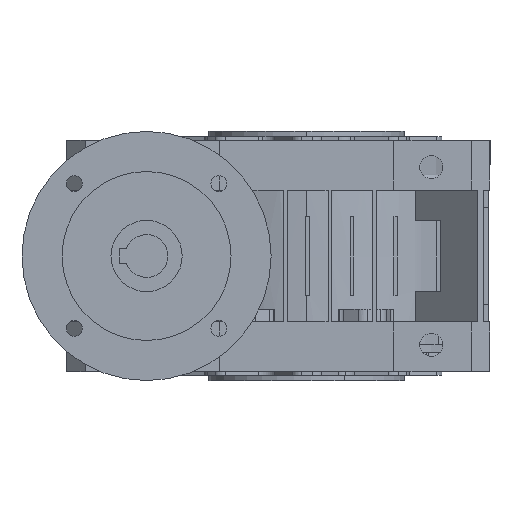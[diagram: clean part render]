
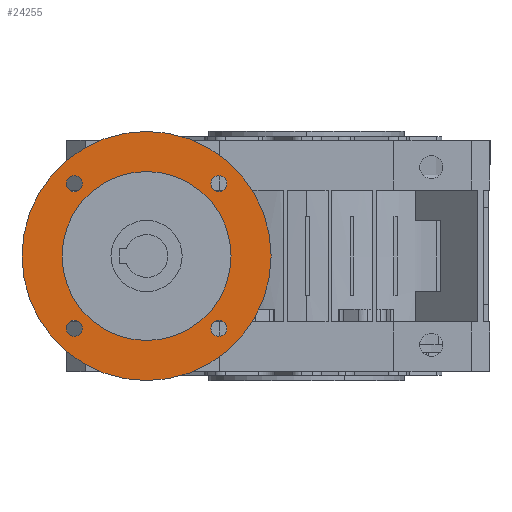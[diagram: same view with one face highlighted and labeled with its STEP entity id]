
A CAD part, left-side view. The second image highlights one B-rep face of the part: STEP entity #24255.
In plain terms, the highlighted planar face has unit normal (-1, 0, 0) as drawn and (1, 0, 0) by its records, which use the part's own axes.
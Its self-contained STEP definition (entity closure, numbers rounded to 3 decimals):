
#118 = CARTESIAN_POINT ( 'NONE',  ( 15., 0., -47.5 ) ) ;
#528 = DIRECTION ( 'NONE',  ( 0., 0., -1. ) ) ;
#1005 = EDGE_CURVE ( 'NONE', #36168, #25735, #21789, .T. ) ;
#1036 = DIRECTION ( 'NONE',  ( 1., 0., 0. ) ) ;
#1202 = ORIENTED_EDGE ( 'NONE', *, *, #5594, .F. ) ;
#1621 = CARTESIAN_POINT ( 'NONE',  ( 15., 40.659, 40.659 ) ) ;
#1759 = DIRECTION ( 'NONE',  ( 1., 0., 0. ) ) ;
#1800 = VERTEX_POINT ( 'NONE', #18047 ) ;
#2706 = VERTEX_POINT ( 'NONE', #33041 ) ;
#3245 = ORIENTED_EDGE ( 'NONE', *, *, #40620, .F. ) ;
#3613 = EDGE_CURVE ( 'NONE', #22430, #1800, #36751, .T. ) ;
#3869 = DIRECTION ( 'NONE',  ( 0., 0., 1. ) ) ;
#4230 = DIRECTION ( 'NONE',  ( 1., 0., 0. ) ) ;
#4306 = DIRECTION ( 'NONE',  ( 0., -1., 0. ) ) ;
#4324 = FACE_OUTER_BOUND ( 'NONE', #6805, .T. ) ;
#4746 = ORIENTED_EDGE ( 'NONE', *, *, #34402, .T. ) ;
#5594 = EDGE_CURVE ( 'NONE', #26882, #23439, #22767, .T. ) ;
#5700 = DIRECTION ( 'NONE',  ( 1., 0., 0. ) ) ;
#6411 = CARTESIAN_POINT ( 'NONE',  ( 15., 0., 0. ) ) ;
#6805 = EDGE_LOOP ( 'NONE', ( #22886, #40052 ) ) ;
#7052 = DIRECTION ( 'NONE',  ( 0., 0., 1. ) ) ;
#7377 = AXIS2_PLACEMENT_3D ( 'NONE', #38646, #13488, #23266 ) ;
#7525 = ORIENTED_EDGE ( 'NONE', *, *, #10679, .F. ) ;
#7866 = CIRCLE ( 'NONE', #35040, 4.5 ) ;
#8037 = CARTESIAN_POINT ( 'NONE',  ( 15., 40.659, 45.159 ) ) ;
#10120 = ORIENTED_EDGE ( 'NONE', *, *, #21808, .F. ) ;
#10484 = DIRECTION ( 'NONE',  ( 0., 0., 1. ) ) ;
#10647 = EDGE_LOOP ( 'NONE', ( #30049, #1202 ) ) ;
#10679 = EDGE_CURVE ( 'NONE', #2706, #20005, #36934, .T. ) ;
#10907 = EDGE_LOOP ( 'NONE', ( #25902, #3245 ) ) ;
#11133 = DIRECTION ( 'NONE',  ( 0., 1., 0. ) ) ;
#12689 = FACE_BOUND ( 'NONE', #10647, .T. ) ;
#13185 = DIRECTION ( 'NONE',  ( 0., 0., 1. ) ) ;
#13488 = DIRECTION ( 'NONE',  ( -1., 0., 0. ) ) ;
#13984 = DIRECTION ( 'NONE',  ( -1., 0., 0. ) ) ;
#14367 = EDGE_CURVE ( 'NONE', #34014, #21140, #28657, .T. ) ;
#14710 = DIRECTION ( 'NONE',  ( 0., 0., 1. ) ) ;
#15966 = CIRCLE ( 'NONE', #34690, 4.5 ) ;
#16054 = CARTESIAN_POINT ( 'NONE',  ( 15., -40.659, -45.159 ) ) ;
#16337 = CARTESIAN_POINT ( 'NONE',  ( 15., -40.659, 40.659 ) ) ;
#16531 = CARTESIAN_POINT ( 'NONE',  ( 15., 40.659, -40.659 ) ) ;
#16646 = EDGE_LOOP ( 'NONE', ( #20894, #7525 ) ) ;
#17582 = EDGE_CURVE ( 'NONE', #20005, #2706, #33607, .T. ) ;
#17766 = CARTESIAN_POINT ( 'NONE',  ( 15., -40.659, 40.659 ) ) ;
#17944 = CARTESIAN_POINT ( 'NONE',  ( 15., 40.659, 40.659 ) ) ;
#18047 = CARTESIAN_POINT ( 'NONE',  ( 15., 0., -70. ) ) ;
#18643 = CARTESIAN_POINT ( 'NONE',  ( 15., 0., 47.5 ) ) ;
#19178 = EDGE_CURVE ( 'NONE', #23439, #26882, #19207, .T. ) ;
#19207 = CIRCLE ( 'NONE', #24137, 4.5 ) ;
#19577 = DIRECTION ( 'NONE',  ( 1., 0., 0. ) ) ;
#19605 = CIRCLE ( 'NONE', #25456, 47.5 ) ;
#19859 = CARTESIAN_POINT ( 'NONE',  ( 15., -40.659, 36.159 ) ) ;
#20005 = VERTEX_POINT ( 'NONE', #16054 ) ;
#20072 = FACE_BOUND ( 'NONE', #31827, .T. ) ;
#20222 = PLANE ( 'NONE',  #7377 ) ;
#20698 = AXIS2_PLACEMENT_3D ( 'NONE', #32508, #23175, #4306 ) ;
#20894 = ORIENTED_EDGE ( 'NONE', *, *, #17582, .F. ) ;
#21140 = VERTEX_POINT ( 'NONE', #21845 ) ;
#21355 = DIRECTION ( 'NONE',  ( 1., 0., 0. ) ) ;
#21712 = AXIS2_PLACEMENT_3D ( 'NONE', #17766, #4230, #14710 ) ;
#21789 = CIRCLE ( 'NONE', #28450, 47.5 ) ;
#21808 = EDGE_CURVE ( 'NONE', #21140, #34014, #15966, .T. ) ;
#21845 = CARTESIAN_POINT ( 'NONE',  ( 15., 40.659, 36.159 ) ) ;
#22430 = VERTEX_POINT ( 'NONE', #34949 ) ;
#22766 = CARTESIAN_POINT ( 'NONE',  ( 15., 0., 0. ) ) ;
#22767 = CIRCLE ( 'NONE', #30257, 4.5 ) ;
#22886 = ORIENTED_EDGE ( 'NONE', *, *, #3613, .F. ) ;
#22930 = CARTESIAN_POINT ( 'NONE',  ( 15., 0., 0. ) ) ;
#23119 = ORIENTED_EDGE ( 'NONE', *, *, #1005, .T. ) ;
#23175 = DIRECTION ( 'NONE',  ( 1., 0., 0. ) ) ;
#23213 = DIRECTION ( 'NONE',  ( -1., 0., 0. ) ) ;
#23266 = DIRECTION ( 'NONE',  ( 0., 0., 1. ) ) ;
#23439 = VERTEX_POINT ( 'NONE', #34717 ) ;
#23509 = CIRCLE ( 'NONE', #21712, 4.5 ) ;
#23529 = FACE_BOUND ( 'NONE', #10907, .T. ) ;
#24137 = AXIS2_PLACEMENT_3D ( 'NONE', #24263, #28349, #528 ) ;
#24255 = ADVANCED_FACE ( 'NONE', ( #20072, #23529, #27460, #12689, #4324, #40774 ), #20222, .F. ) ;
#24263 = CARTESIAN_POINT ( 'NONE',  ( 15., 40.659, -40.659 ) ) ;
#25456 = AXIS2_PLACEMENT_3D ( 'NONE', #22766, #25953, #7052 ) ;
#25735 = VERTEX_POINT ( 'NONE', #18643 ) ;
#25902 = ORIENTED_EDGE ( 'NONE', *, *, #39170, .F. ) ;
#25953 = DIRECTION ( 'NONE',  ( -1., 0., 0. ) ) ;
#26339 = VERTEX_POINT ( 'NONE', #19859 ) ;
#26882 = VERTEX_POINT ( 'NONE', #35620 ) ;
#27460 = FACE_BOUND ( 'NONE', #16646, .T. ) ;
#27533 = EDGE_CURVE ( 'NONE', #1800, #22430, #35343, .T. ) ;
#27727 = DIRECTION ( 'NONE',  ( 0., -1., 0. ) ) ;
#27936 = DIRECTION ( 'NONE',  ( 0., 1., 0. ) ) ;
#28349 = DIRECTION ( 'NONE',  ( 1., 0., 0. ) ) ;
#28450 = AXIS2_PLACEMENT_3D ( 'NONE', #6411, #28457, #13185 ) ;
#28457 = DIRECTION ( 'NONE',  ( -1., 0., 0. ) ) ;
#28657 = CIRCLE ( 'NONE', #31359, 4.5 ) ;
#28734 = VERTEX_POINT ( 'NONE', #36555 ) ;
#29601 = AXIS2_PLACEMENT_3D ( 'NONE', #31027, #5700, #27727 ) ;
#30049 = ORIENTED_EDGE ( 'NONE', *, *, #19178, .F. ) ;
#30257 = AXIS2_PLACEMENT_3D ( 'NONE', #16531, #1036, #35312 ) ;
#31027 = CARTESIAN_POINT ( 'NONE',  ( 15., -40.659, -40.659 ) ) ;
#31359 = AXIS2_PLACEMENT_3D ( 'NONE', #17944, #21355, #27936 ) ;
#31513 = AXIS2_PLACEMENT_3D ( 'NONE', #22930, #23213, #38880 ) ;
#31827 = EDGE_LOOP ( 'NONE', ( #10120, #38074 ) ) ;
#32393 = CARTESIAN_POINT ( 'NONE',  ( 15., 0., 0. ) ) ;
#32508 = CARTESIAN_POINT ( 'NONE',  ( 15., -40.659, -40.659 ) ) ;
#33041 = CARTESIAN_POINT ( 'NONE',  ( 15., -40.659, -36.159 ) ) ;
#33607 = CIRCLE ( 'NONE', #29601, 4.5 ) ;
#34014 = VERTEX_POINT ( 'NONE', #8037 ) ;
#34402 = EDGE_CURVE ( 'NONE', #25735, #36168, #19605, .T. ) ;
#34690 = AXIS2_PLACEMENT_3D ( 'NONE', #1621, #1759, #11133 ) ;
#34717 = CARTESIAN_POINT ( 'NONE',  ( 15., 40.659, -45.159 ) ) ;
#34949 = CARTESIAN_POINT ( 'NONE',  ( 15., 0., 70. ) ) ;
#35040 = AXIS2_PLACEMENT_3D ( 'NONE', #16337, #19577, #3869 ) ;
#35312 = DIRECTION ( 'NONE',  ( 0., 0., -1. ) ) ;
#35343 = CIRCLE ( 'NONE', #31513, 70. ) ;
#35620 = CARTESIAN_POINT ( 'NONE',  ( 15., 40.659, -36.159 ) ) ;
#35987 = AXIS2_PLACEMENT_3D ( 'NONE', #32393, #13984, #10484 ) ;
#36168 = VERTEX_POINT ( 'NONE', #118 ) ;
#36555 = CARTESIAN_POINT ( 'NONE',  ( 15., -40.659, 45.159 ) ) ;
#36751 = CIRCLE ( 'NONE', #35987, 70. ) ;
#36934 = CIRCLE ( 'NONE', #20698, 4.5 ) ;
#38074 = ORIENTED_EDGE ( 'NONE', *, *, #14367, .F. ) ;
#38646 = CARTESIAN_POINT ( 'NONE',  ( 15., 70., 0. ) ) ;
#38880 = DIRECTION ( 'NONE',  ( 0., 0., 1. ) ) ;
#39170 = EDGE_CURVE ( 'NONE', #26339, #28734, #7866, .T. ) ;
#39688 = EDGE_LOOP ( 'NONE', ( #4746, #23119 ) ) ;
#40052 = ORIENTED_EDGE ( 'NONE', *, *, #27533, .F. ) ;
#40620 = EDGE_CURVE ( 'NONE', #28734, #26339, #23509, .T. ) ;
#40774 = FACE_BOUND ( 'NONE', #39688, .T. ) ;
